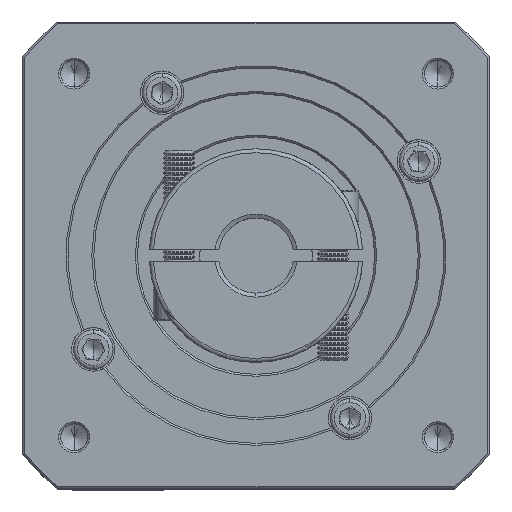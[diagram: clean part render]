
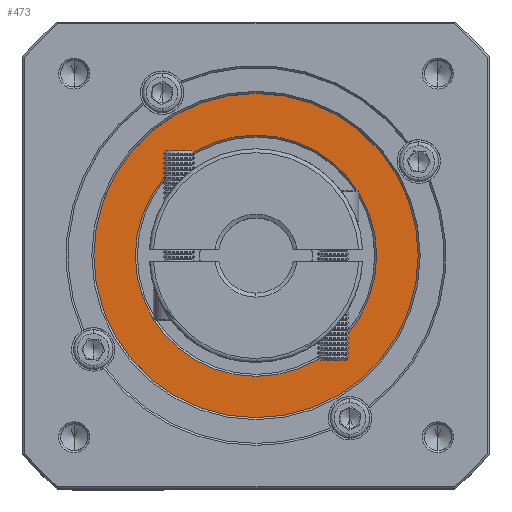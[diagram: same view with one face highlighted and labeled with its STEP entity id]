
A CAD part, top view. The second image highlights one B-rep face of the part: STEP entity #473.
In plain terms, the highlighted planar face has unit normal (0, 0, 1).
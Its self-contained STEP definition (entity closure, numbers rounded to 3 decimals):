
#473 = ADVANCED_FACE ( 'NONE', ( #130222, #96489 ), #29618, .T. ) ;
#1998 = CARTESIAN_POINT ( 'NONE',  ( 54.206, 51.461, -19.981 ) ) ;
#4494 = DIRECTION ( 'NONE',  ( 0., -1., 0. ) ) ;
#6296 = DIRECTION ( 'NONE',  ( 0., 0., -1. ) ) ;
#6656 = CARTESIAN_POINT ( 'NONE',  ( 23.706, 51.461, -19.981 ) ) ;
#6960 = EDGE_CURVE ( 'NONE', #69996, #88949, #80043, .T. ) ;
#8138 = VERTEX_POINT ( 'NONE', #11305 ) ;
#9481 = CARTESIAN_POINT ( 'NONE',  ( 54.206, 51.461, -19.981 ) ) ;
#10241 = EDGE_LOOP ( 'NONE', ( #72374, #118888 ) ) ;
#10923 = CIRCLE ( 'NONE', #18864, 41. ) ;
#11305 = CARTESIAN_POINT ( 'NONE',  ( 84.706, 51.461, -19.981 ) ) ;
#11886 = DIRECTION ( 'NONE',  ( 0., -1., 0. ) ) ;
#18864 = AXIS2_PLACEMENT_3D ( 'NONE', #1998, #93262, #11886 ) ;
#23922 = CARTESIAN_POINT ( 'NONE',  ( 54.206, 10.461, -19.981 ) ) ;
#27326 = CARTESIAN_POINT ( 'NONE',  ( 54.206, 51.461, -19.981 ) ) ;
#27830 = EDGE_CURVE ( 'NONE', #8138, #83148, #62487, .T. ) ;
#29618 = PLANE ( 'NONE',  #33142 ) ;
#33142 = AXIS2_PLACEMENT_3D ( 'NONE', #9481, #91712, #51229 ) ;
#38257 = CIRCLE ( 'NONE', #73312, 30.5 ) ;
#39419 = EDGE_CURVE ( 'NONE', #88949, #69996, #10923, .T. ) ;
#51229 = DIRECTION ( 'NONE',  ( 0., -1., 0. ) ) ;
#60047 = ORIENTED_EDGE ( 'NONE', *, *, #27830, .T. ) ;
#62487 = CIRCLE ( 'NONE', #62679, 30.5 ) ;
#62679 = AXIS2_PLACEMENT_3D ( 'NONE', #123226, #123670, #84195 ) ;
#65656 = DIRECTION ( 'NONE',  ( 0., 0., 1. ) ) ;
#69462 = ORIENTED_EDGE ( 'NONE', *, *, #99582, .T. ) ;
#69996 = VERTEX_POINT ( 'NONE', #23922 ) ;
#72374 = ORIENTED_EDGE ( 'NONE', *, *, #6960, .T. ) ;
#73312 = AXIS2_PLACEMENT_3D ( 'NONE', #27326, #6296, #88958 ) ;
#80043 = CIRCLE ( 'NONE', #86762, 41. ) ;
#83148 = VERTEX_POINT ( 'NONE', #6656 ) ;
#84195 = DIRECTION ( 'NONE',  ( -1., 0., 0. ) ) ;
#86762 = AXIS2_PLACEMENT_3D ( 'NONE', #117687, #65656, #4494 ) ;
#88949 = VERTEX_POINT ( 'NONE', #92589 ) ;
#88958 = DIRECTION ( 'NONE',  ( -1., 0., 0. ) ) ;
#91712 = DIRECTION ( 'NONE',  ( 0., 0., 1. ) ) ;
#92589 = CARTESIAN_POINT ( 'NONE',  ( 54.206, 92.461, -19.981 ) ) ;
#93262 = DIRECTION ( 'NONE',  ( 0., 0., 1. ) ) ;
#96489 = FACE_BOUND ( 'NONE', #120325, .T. ) ;
#99582 = EDGE_CURVE ( 'NONE', #83148, #8138, #38257, .T. ) ;
#117687 = CARTESIAN_POINT ( 'NONE',  ( 54.206, 51.461, -19.981 ) ) ;
#118888 = ORIENTED_EDGE ( 'NONE', *, *, #39419, .T. ) ;
#120325 = EDGE_LOOP ( 'NONE', ( #69462, #60047 ) ) ;
#123226 = CARTESIAN_POINT ( 'NONE',  ( 54.206, 51.461, -19.981 ) ) ;
#123670 = DIRECTION ( 'NONE',  ( 0., 0., -1. ) ) ;
#130222 = FACE_OUTER_BOUND ( 'NONE', #10241, .T. ) ;
